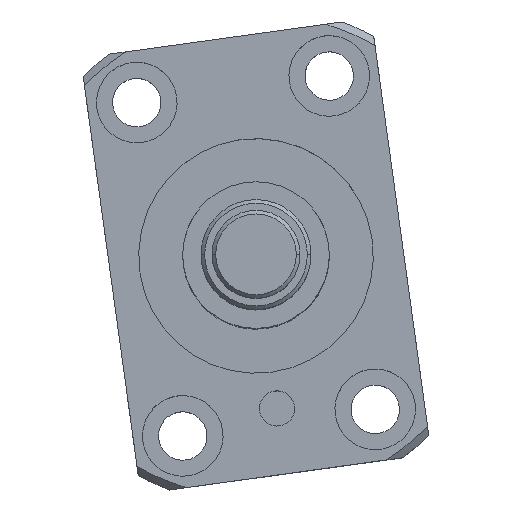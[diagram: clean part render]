
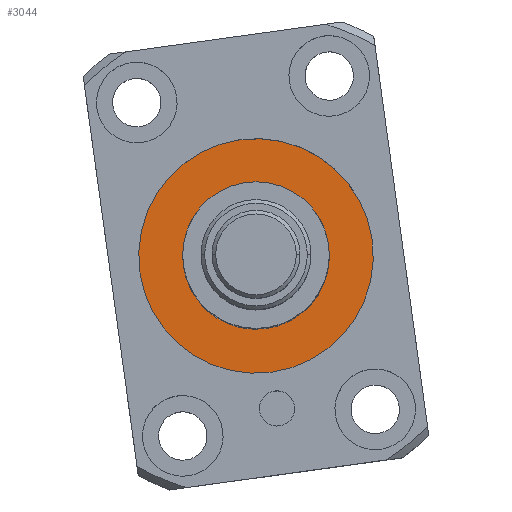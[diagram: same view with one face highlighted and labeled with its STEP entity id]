
A CAD part, top view. The second image highlights one B-rep face of the part: STEP entity #3044.
In plain terms, the highlighted planar face has unit normal (0, 0, 1).
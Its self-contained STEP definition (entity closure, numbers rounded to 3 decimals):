
#67 = CIRCLE ( 'NONE', #172, 16. ) ;
#116 = DIRECTION ( 'NONE',  ( 0., 0., -1. ) ) ;
#125 = CARTESIAN_POINT ( 'NONE',  ( 16., 0., -6. ) ) ;
#172 = AXIS2_PLACEMENT_3D ( 'NONE', #2896, #1125, #3217 ) ;
#235 = CIRCLE ( 'NONE', #662, 10. ) ;
#416 = CARTESIAN_POINT ( 'NONE',  ( 0., 0., -6. ) ) ;
#457 = EDGE_CURVE ( 'NONE', #1998, #2549, #67, .T. ) ;
#471 = AXIS2_PLACEMENT_3D ( 'NONE', #416, #3015, #1216 ) ;
#582 = CARTESIAN_POINT ( 'NONE',  ( 0., 0., -6. ) ) ;
#662 = AXIS2_PLACEMENT_3D ( 'NONE', #1705, #116, #1961 ) ;
#712 = CARTESIAN_POINT ( 'NONE',  ( 10., 0., -6. ) ) ;
#854 = DIRECTION ( 'NONE',  ( 1., 0., 0. ) ) ;
#959 = PLANE ( 'NONE',  #471 ) ;
#1018 = EDGE_CURVE ( 'NONE', #1475, #3232, #3114, .T. ) ;
#1125 = DIRECTION ( 'NONE',  ( 0., 0., 1. ) ) ;
#1156 = CARTESIAN_POINT ( 'NONE',  ( 0., 0., -6. ) ) ;
#1216 = DIRECTION ( 'NONE',  ( 1., 0., 0. ) ) ;
#1278 = ORIENTED_EDGE ( 'NONE', *, *, #2514, .T. ) ;
#1331 = ORIENTED_EDGE ( 'NONE', *, *, #457, .T. ) ;
#1392 = ORIENTED_EDGE ( 'NONE', *, *, #2959, .T. ) ;
#1396 = CARTESIAN_POINT ( 'NONE',  ( -16., 0., -6. ) ) ;
#1406 = ORIENTED_EDGE ( 'NONE', *, *, #1018, .T. ) ;
#1423 = DIRECTION ( 'NONE',  ( 1., 0., 0. ) ) ;
#1475 = VERTEX_POINT ( 'NONE', #712 ) ;
#1705 = CARTESIAN_POINT ( 'NONE',  ( 0., 0., -6. ) ) ;
#1961 = DIRECTION ( 'NONE',  ( 1., 0., 0. ) ) ;
#1982 = AXIS2_PLACEMENT_3D ( 'NONE', #1156, #3253, #1423 ) ;
#1998 = VERTEX_POINT ( 'NONE', #1396 ) ;
#2024 = FACE_BOUND ( 'NONE', #2656, .T. ) ;
#2312 = CARTESIAN_POINT ( 'NONE',  ( -10., 0., -6. ) ) ;
#2399 = CIRCLE ( 'NONE', #1982, 16. ) ;
#2514 = EDGE_CURVE ( 'NONE', #2549, #1998, #2399, .T. ) ;
#2549 = VERTEX_POINT ( 'NONE', #125 ) ;
#2557 = DIRECTION ( 'NONE',  ( 0., 0., -1. ) ) ;
#2641 = EDGE_LOOP ( 'NONE', ( #1278, #1331 ) ) ;
#2656 = EDGE_LOOP ( 'NONE', ( #1392, #1406 ) ) ;
#2848 = AXIS2_PLACEMENT_3D ( 'NONE', #582, #2557, #854 ) ;
#2896 = CARTESIAN_POINT ( 'NONE',  ( 0., 0., -6. ) ) ;
#2959 = EDGE_CURVE ( 'NONE', #3232, #1475, #235, .T. ) ;
#3015 = DIRECTION ( 'NONE',  ( 0., 0., 1. ) ) ;
#3044 = ADVANCED_FACE ( 'NONE', ( #3694, #2024 ), #959, .T. ) ;
#3114 = CIRCLE ( 'NONE', #2848, 10. ) ;
#3217 = DIRECTION ( 'NONE',  ( 1., 0., 0. ) ) ;
#3232 = VERTEX_POINT ( 'NONE', #2312 ) ;
#3253 = DIRECTION ( 'NONE',  ( 0., 0., 1. ) ) ;
#3694 = FACE_OUTER_BOUND ( 'NONE', #2641, .T. ) ;
